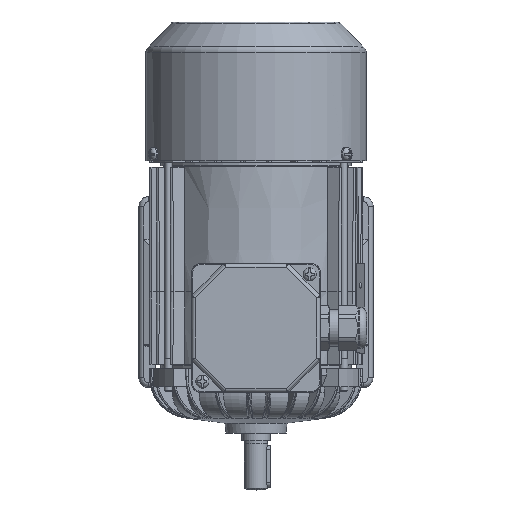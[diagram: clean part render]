
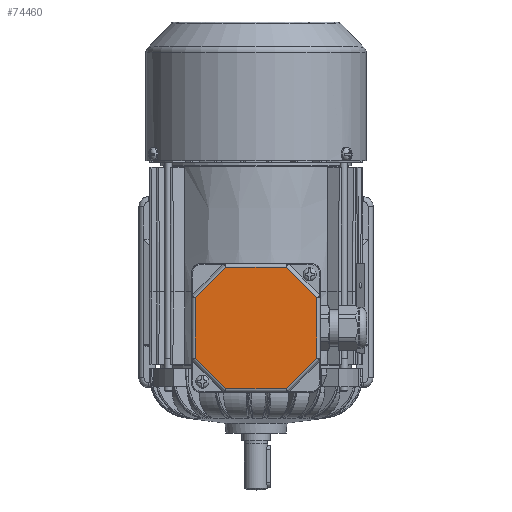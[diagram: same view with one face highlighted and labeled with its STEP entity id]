
A CAD part, top view. The second image highlights one B-rep face of the part: STEP entity #74460.
In plain terms, the highlighted planar face has unit normal (0, 0, 1).
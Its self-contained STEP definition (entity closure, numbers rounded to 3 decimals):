
#2496=LINE('',#113645,#5643);
#2497=LINE('',#113649,#5644);
#2499=LINE('',#113658,#5646);
#2501=LINE('',#113667,#5648);
#2536=LINE('',#114090,#5683);
#2537=LINE('',#114091,#5684);
#2538=LINE('',#114092,#5685);
#2539=LINE('',#114093,#5686);
#5643=VECTOR('',#88631,1000.);
#5644=VECTOR('',#88636,1000.);
#5646=VECTOR('',#88644,1000.);
#5648=VECTOR('',#88652,1000.);
#5683=VECTOR('',#88839,1000.);
#5684=VECTOR('',#88840,1000.);
#5685=VECTOR('',#88841,1000.);
#5686=VECTOR('',#88842,1000.);
#20068=ORIENTED_EDGE('',*,*,#31658,.T.);
#20069=ORIENTED_EDGE('',*,*,#31553,.T.);
#20070=ORIENTED_EDGE('',*,*,#31659,.T.);
#20071=ORIENTED_EDGE('',*,*,#31557,.T.);
#20072=ORIENTED_EDGE('',*,*,#31660,.T.);
#20073=ORIENTED_EDGE('',*,*,#31549,.T.);
#20074=ORIENTED_EDGE('',*,*,#31661,.T.);
#20075=ORIENTED_EDGE('',*,*,#31547,.T.);
#31547=EDGE_CURVE('',#38011,#38010,#2496,.T.);
#31549=EDGE_CURVE('',#38012,#38013,#2497,.T.);
#31553=EDGE_CURVE('',#38016,#38017,#2499,.T.);
#31557=EDGE_CURVE('',#38020,#38021,#2501,.T.);
#31658=EDGE_CURVE('',#38010,#38016,#2536,.F.);
#31659=EDGE_CURVE('',#38017,#38020,#2537,.F.);
#31660=EDGE_CURVE('',#38021,#38012,#2538,.F.);
#31661=EDGE_CURVE('',#38013,#38011,#2539,.F.);
#38010=VERTEX_POINT('',#113644);
#38011=VERTEX_POINT('',#113646);
#38012=VERTEX_POINT('',#113650);
#38013=VERTEX_POINT('',#113651);
#38016=VERTEX_POINT('',#113659);
#38017=VERTEX_POINT('',#113660);
#38020=VERTEX_POINT('',#113668);
#38021=VERTEX_POINT('',#113669);
#44662=EDGE_LOOP('',(#20068,#20069,#20070,#20071,#20072,#20073,#20074,#20075));
#48188=FACE_BOUND('',#44662,.T.);
#50328=PLANE('',#78818);
#74460=ADVANCED_FACE('',(#48188),#50328,.T.);
#78818=AXIS2_PLACEMENT_3D('',#114089,#88837,#88838);
#88631=DIRECTION('',(-0.707,0.707,0.));
#88636=DIRECTION('',(0.707,0.707,0.));
#88644=DIRECTION('',(-0.707,-0.707,0.));
#88652=DIRECTION('',(0.707,-0.707,0.));
#88837=DIRECTION('',(0.,0.,1.));
#88838=DIRECTION('',(0.,1.,0.));
#88839=DIRECTION('',(1.,0.,0.));
#88840=DIRECTION('',(0.,1.,0.));
#88841=DIRECTION('',(-1.,0.,0.));
#88842=DIRECTION('',(0.,-1.,0.));
#113644=CARTESIAN_POINT('',(18.255,14.825,110.5));
#113645=CARTESIAN_POINT('',(17.679,15.401,110.5));
#113646=CARTESIAN_POINT('',(36.825,-3.745,110.5));
#113649=CARTESIAN_POINT('',(37.401,-39.679,110.5));
#113650=CARTESIAN_POINT('',(18.255,-58.825,110.5));
#113651=CARTESIAN_POINT('',(36.825,-40.255,110.5));
#113658=CARTESIAN_POINT('',(-37.401,-4.321,110.5));
#113659=CARTESIAN_POINT('',(-18.255,14.825,110.5));
#113660=CARTESIAN_POINT('',(-36.825,-3.745,110.5));
#113667=CARTESIAN_POINT('',(-17.679,-59.401,110.5));
#113668=CARTESIAN_POINT('',(-36.825,-40.255,110.5));
#113669=CARTESIAN_POINT('',(-18.255,-58.825,110.5));
#114089=CARTESIAN_POINT('',(-39.,-61.,110.5));
#114090=CARTESIAN_POINT('',(-19.069,14.825,110.5));
#114091=CARTESIAN_POINT('',(-36.825,-41.069,110.5));
#114092=CARTESIAN_POINT('',(19.069,-58.825,110.5));
#114093=CARTESIAN_POINT('',(36.825,-2.931,110.5));
